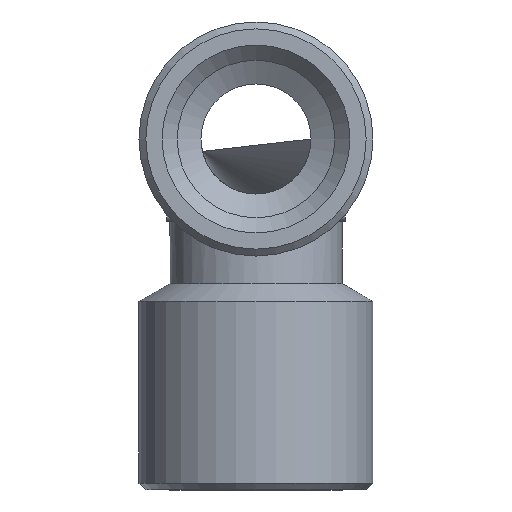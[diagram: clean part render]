
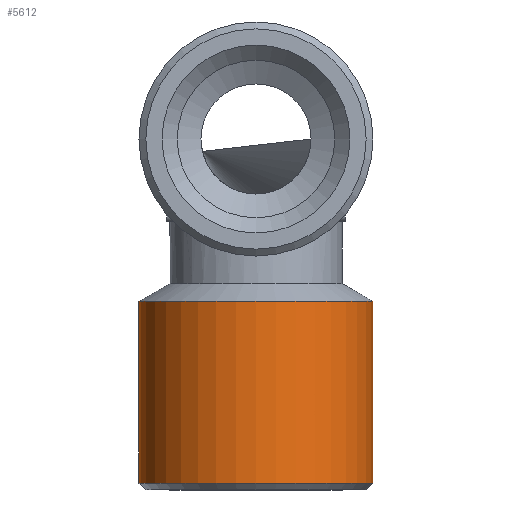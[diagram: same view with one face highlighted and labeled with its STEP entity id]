
A CAD part, left-side view. The second image highlights one B-rep face of the part: STEP entity #5612.
In plain terms, the highlighted cylindrical face has radius 8.5 mm (diameter 17 mm), a full revolution.
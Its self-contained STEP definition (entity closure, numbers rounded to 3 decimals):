
#1446=CYLINDRICAL_SURFACE('',#5483,8.5);
#1488=ORIENTED_EDGE('',*,*,#1882,.F.);
#1489=ORIENTED_EDGE('',*,*,#1883,.T.);
#1742=CIRCLE('',#5482,8.5);
#1743=CIRCLE('',#5484,8.5);
#1788=VERTEX_POINT('',#2466);
#1789=VERTEX_POINT('',#2469);
#1882=EDGE_CURVE('',#1788,#1788,#1742,.T.);
#1883=EDGE_CURVE('',#1789,#1789,#1743,.T.);
#2012=EDGE_LOOP('',(#1488));
#2013=EDGE_LOOP('',(#1489));
#2098=FACE_BOUND('',#2012,.T.);
#2099=FACE_BOUND('',#2013,.T.);
#2188=DIRECTION('',(0.,-1.,0.));
#2189=DIRECTION('',(0.,0.,8.5));
#2190=DIRECTION('',(0.,1.,0.));
#2191=DIRECTION('',(1.,0.,0.));
#2192=DIRECTION('',(0.,-1.,0.));
#2193=DIRECTION('',(0.,0.,8.5));
#2466=CARTESIAN_POINT('',(33.663,7.141,8.5));
#2467=CARTESIAN_POINT('',(33.663,7.141,0.));
#2468=CARTESIAN_POINT('',(33.663,7.141,0.));
#2469=CARTESIAN_POINT('',(33.663,20.342,8.5));
#2470=CARTESIAN_POINT('',(33.663,20.342,0.));
#5482=AXIS2_PLACEMENT_3D('',#2467,#2188,#2189);
#5483=AXIS2_PLACEMENT_3D('',#2468,#2190,#2191);
#5484=AXIS2_PLACEMENT_3D('',#2470,#2192,#2193);
#5612=ADVANCED_FACE('',(#2098,#2099),#1446,.T.);
